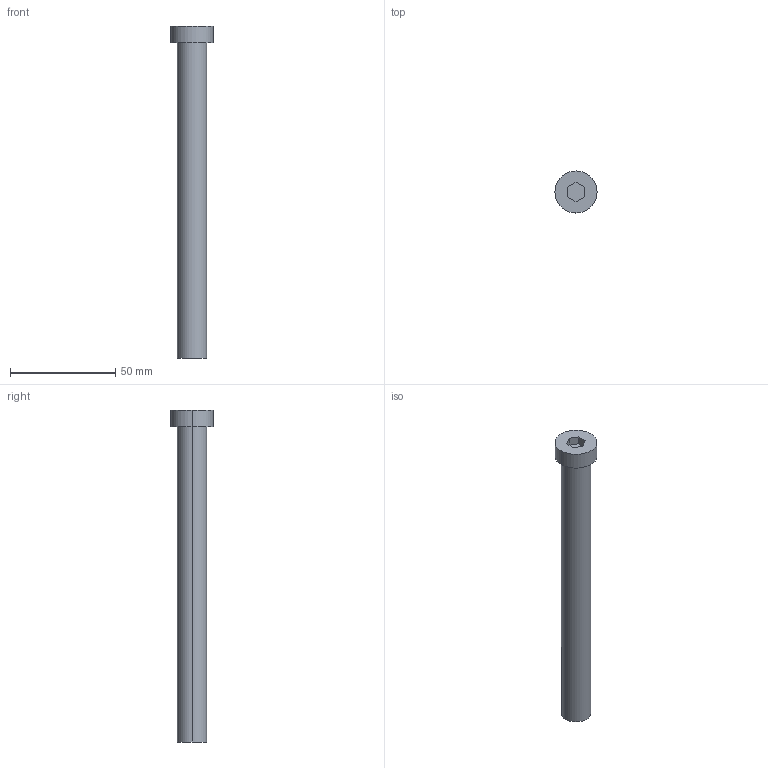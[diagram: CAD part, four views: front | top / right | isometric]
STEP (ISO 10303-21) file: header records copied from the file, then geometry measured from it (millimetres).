
FILE_DESCRIPTION (( 'STEP AP214' ), '1' );
FILE_NAME ('BruyRubio_TGH__14_x_150_-_M-8.STEP', '2019-12-22T23:35:14', ( '' ), ( '' ), 'SwSTEP 2.0', 'SolidWorks 2017', '' );
FILE_SCHEMA (( 'AUTOMOTIVE_DESIGN' ));
Length unit declared in the file: millimetre
Products named in the file (1): BruyRubio_TGH__14_x_150_-_M-8
Bounding box: 20 x 20 x 158 mm (x, y, z)
Volume: 24654.4 mm3; surface area: 9200.4 mm2
Topology: 2 solids, 2 shells, 27 faces, 58 edges, 37 vertices
Faces by surface type: plane 13, cylinder 12, cone 2
Entity records: 1070 total; most frequent: DIRECTION 136, CARTESIAN_POINT 121, ORIENTED_EDGE 112, EDGE_CURVE 56, AXIS2_PLACEMENT_3D 52, VERTEX_POINT 37, EDGE_LOOP 33, VECTOR 32
